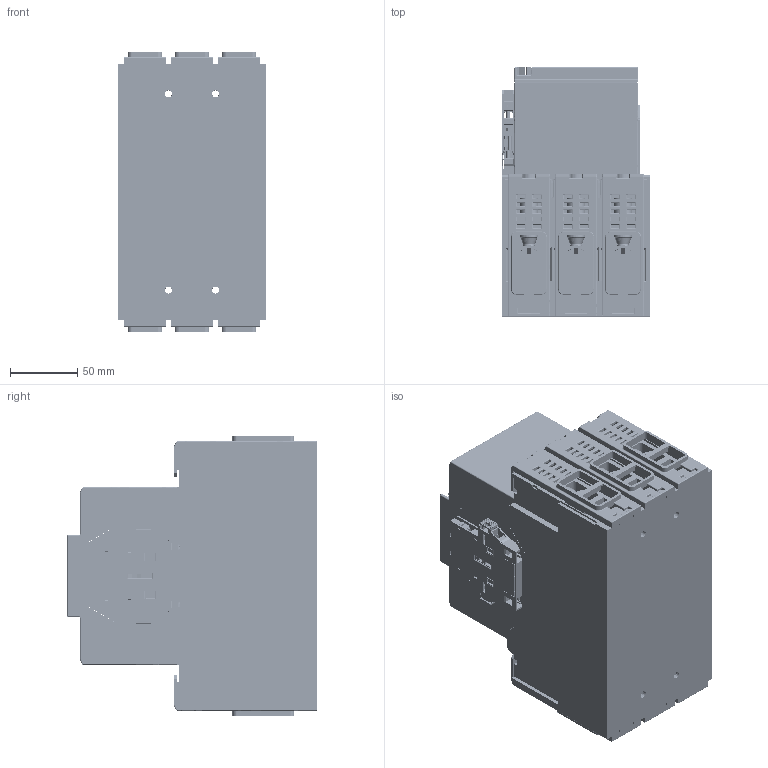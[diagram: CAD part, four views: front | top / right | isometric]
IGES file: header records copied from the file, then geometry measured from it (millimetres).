
Start section: SolidWorks IGES file using analytic representation for surfaces
Global section: file name: \\Brjgs100\dfsweg\GROUPS\BR_SC_JGS_WA_TECNICO\ENG\Usuarios\Rodrigob\Modelos3D\Contatores e Partida de Motores\Contatores\CWB225.22\CWB225.22.IGS; native system: SolidWorks 2022; preprocessor: SolidWorks 2022; author: rodrigob; date: 230926.145328; units: millimetre
Bounding box: 110 x 185.55 x 208.2 mm (x, y, z)
Surface area: 473731.7 mm2 (no closed solid volume)
Topology: 0 solids, 0 shells, 5252 faces, 45086 edges, 45003 vertices
Faces by surface type: bspline 3809, revolution 1443
